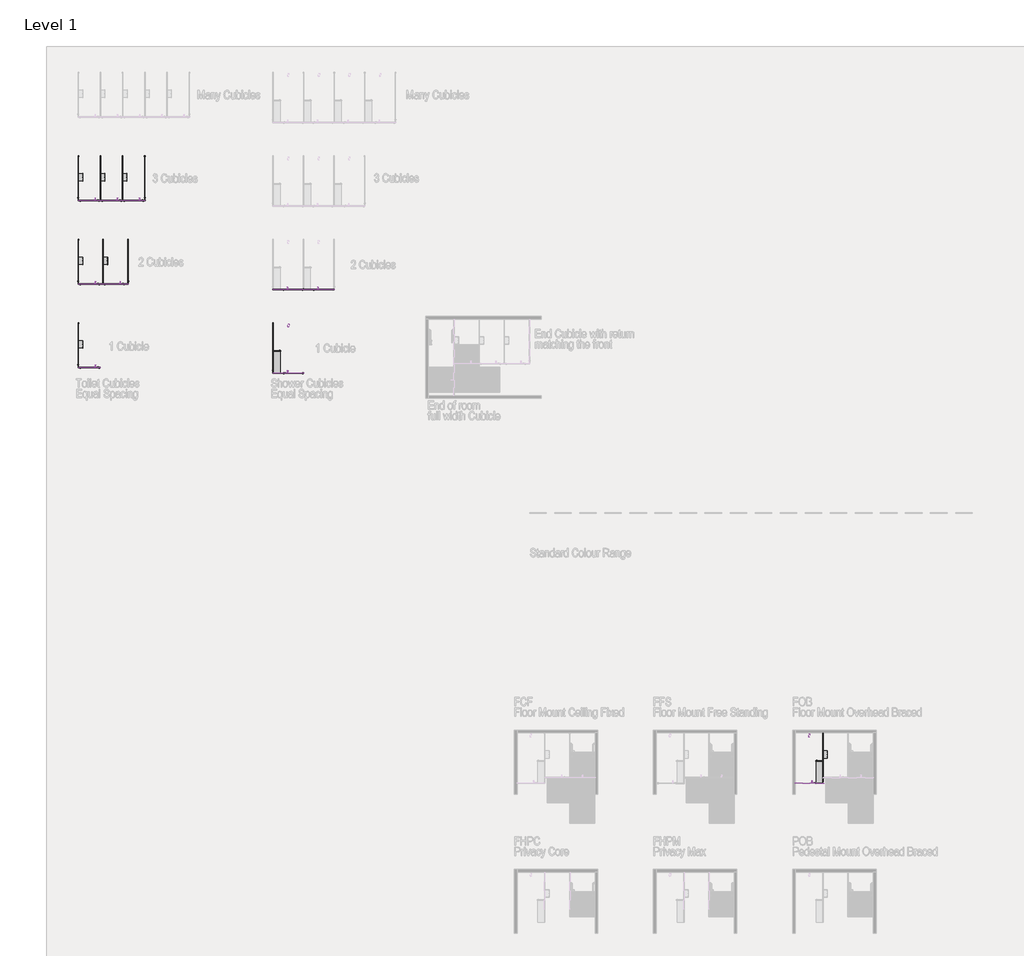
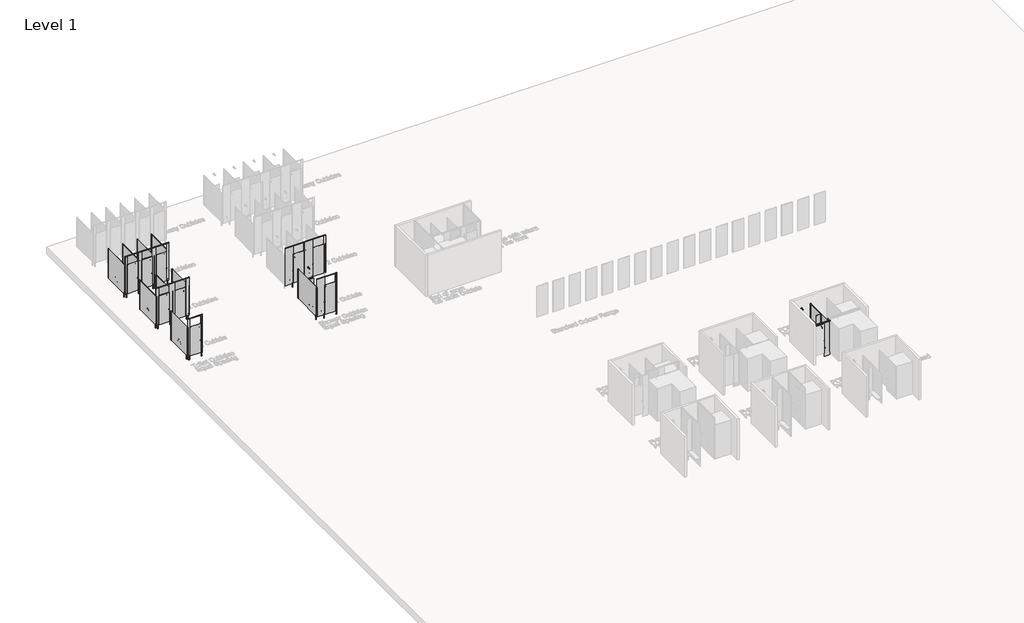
# One storey, part 4 of 21: 122 furniture elements, 7 proxies, 2 flow terminals.
"""IFC4 building model written with IfcOpenShell, lengths in millimetres."""

from ifc_helpers import new_model, si_unit, origin, place, context, project, spatial, transform, mapped, element, save
from components import toilet_paper_dispenser_single_generic_jumbo_roll_standard_5525cc7b, shower_outlet_generic_cylinder_fixed_standard_5790de0d, furniture_50x50x3_ea_0fb80352, furniture_50x50x3_ea_30474b0d, single_jumbo_roll_84fdac57, standard_48aedc78, standard_17157e73, standard_65739662, standard_f6136b52, standard_b136e32f, standard_1f9b89ca, standard_fe4ffabc, standard_7c3ea897, standard_11625aa9, standard_652f884a, standard_3be396ba, standard_0ccb0c43, standard_794593c2, standard_ea3ccfe1, standard_a8bdd259, standard_39e46a34, standard_4bb00b36, standard_c02571ef, standard_90f6d6dc, standard_d9afaeec, standard_903006f0, standard_83352e19, standard_31cafe8a, standard_3d746f33, standard_ba3eb68e, standard_a495ee6c, standard_6f46902e, standard_7d118681, standard_c8a961e5, standard_4ddd5521, standard_c67f05f5, standard_332f851e, standard_0b3fbc73

model = new_model("IFC4")

# Units and contexts
model_context = context("Model", 3, world=origin())
ifc_project = project(units=[si_unit("LENGTHUNIT", "METRE", prefix="MILLI")], contexts=[model_context])

# Site, building, storey
site = spatial("IfcSite", under=ifc_project)
building = spatial("IfcBuilding", under=site)
storey = spatial("IfcBuildingStorey", under=building, Name="Level 1", Elevation=0.0)

# Proxies
placement = place(None, origin())
toilet_paper_dispenser_single_generic_jumbo_roll_standard_shape = toilet_paper_dispenser_single_generic_jumbo_roll_standard_5525cc7b(model_context)
element("IfcBuildingElementProxy", 1, Name="Toilet Paper Dispenser-Single-Generic-Jumbo Roll : Standard", ObjectType="Toilet Paper Dispenser-Single-Generic-Jumbo Roll : Standard", at=placement, inside=storey, context=model_context, shape_type="MappedRepresentation", body=[
    mapped(toilet_paper_dispenser_single_generic_jumbo_roll_standard_shape, transform((-135.416652, 9284.4657683, 561.5), x_axis=(0.0, 1.0000000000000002, 0.0), y_axis=(0.0, 0.0, 1.0), z_axis=(1.0000000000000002, 0.0, 0.0))),
])
element("IfcBuildingElementProxy", 2, Name="Toilet Paper Dispenser-Single-Generic-Jumbo Roll : Standard", ObjectType="Toilet Paper Dispenser-Single-Generic-Jumbo Roll : Standard", at=placement, inside=storey, context=model_context, shape_type="MappedRepresentation", body=[
    mapped(toilet_paper_dispenser_single_generic_jumbo_roll_standard_shape, transform((-25995.2801542, 27012.2607897, 561.5), x_axis=(0.0, 1.0000000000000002, 0.0), y_axis=(0.0, 0.0, 1.0), z_axis=(1.0000000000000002, 0.0, 0.0))),
])
element("IfcBuildingElementProxy", 3, Name="Toilet Paper Dispenser-Single-Generic-Jumbo Roll : Standard", ObjectType="Toilet Paper Dispenser-Single-Generic-Jumbo Roll : Standard", at=placement, inside=storey, context=model_context, shape_type="MappedRepresentation", body=[
    mapped(toilet_paper_dispenser_single_generic_jumbo_roll_standard_shape, transform((-26093.1134875, 30012.2607897, 561.5), x_axis=(0.0, 1.0, 0.0), y_axis=(0.0, 0.0, 1.0), z_axis=(1.0, 0.0, 0.0))),
])
element("IfcBuildingElementProxy", 4, Name="Toilet Paper Dispenser-Single-Generic-Jumbo Roll : Standard", ObjectType="Toilet Paper Dispenser-Single-Generic-Jumbo Roll : Standard", at=placement, inside=storey, context=model_context, shape_type="MappedRepresentation", body=[
    mapped(toilet_paper_dispenser_single_generic_jumbo_roll_standard_shape, transform((-25297.4468208, 30012.2607897, 561.5), x_axis=(0.0, 1.0, 0.0), y_axis=(0.0, 0.0, 1.0), z_axis=(1.0, 0.0, 0.0))),
])
element("IfcBuildingElementProxy", 5, Name="Toilet Paper Dispenser-Single-Generic-Jumbo Roll : Standard", ObjectType="Toilet Paper Dispenser-Single-Generic-Jumbo Roll : Standard", at=placement, inside=storey, context=model_context, shape_type="MappedRepresentation", body=[
    mapped(toilet_paper_dispenser_single_generic_jumbo_roll_standard_shape, transform((-26888.7801542, 24012.2607897, 561.5), x_axis=(0.0, 1.0000000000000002, 0.0), y_axis=(0.0, 0.0, 1.0), z_axis=(1.0000000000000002, 0.0, 0.0))),
])
element("IfcBuildingElementProxy", 6, Name="Toilet Paper Dispenser-Single-Generic-Jumbo Roll : Standard", ObjectType="Toilet Paper Dispenser-Single-Generic-Jumbo Roll : Standard", at=placement, inside=storey, context=model_context, shape_type="MappedRepresentation", body=[
    mapped(toilet_paper_dispenser_single_generic_jumbo_roll_standard_shape, transform((-26888.7801542, 27012.2607897, 561.5), x_axis=(0.0, 1.0000000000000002, 0.0), y_axis=(0.0, 0.0, 1.0), z_axis=(1.0000000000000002, 0.0, 0.0))),
])
element("IfcBuildingElementProxy", 7, Name="Toilet Paper Dispenser-Single-Generic-Jumbo Roll : Standard", ObjectType="Toilet Paper Dispenser-Single-Generic-Jumbo Roll : Standard", at=placement, inside=storey, context=model_context, shape_type="MappedRepresentation", body=[
    mapped(toilet_paper_dispenser_single_generic_jumbo_roll_standard_shape, transform((-26888.7801542, 30012.2607897, 561.5), x_axis=(0.0, 1.0000000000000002, 0.0), y_axis=(0.0, 0.0, 1.0), z_axis=(1.0000000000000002, 0.0, 0.0))),
])

# Flow terminals
shower_outlet_generic_cylinder_fixed_standard_shape = shower_outlet_generic_cylinder_fixed_standard_5790de0d(model_context)
element("IfcFlowTerminal", 8, ObjectType="Shower-Outlet-Generic-Cylinder-Fixed : Standard", at=placement, inside=storey, context=model_context, shape_type="MappedRepresentation", body=[
    mapped(shower_outlet_generic_cylinder_fixed_standard_shape, transform((-641.916652, 10054.4657683, 1800.0), x_axis=(1.0, 0.0, 0.0), y_axis=(0.0, 0.0, 1.0), z_axis=(0.0, -1.0, 0.0))),
])
element("IfcFlowTerminal", 9, ObjectType="Shower-Outlet-Generic-Cylinder-Fixed : Standard", at=placement, inside=storey, context=model_context, shape_type="MappedRepresentation", body=[
    mapped(shower_outlet_generic_cylinder_fixed_standard_shape, transform((-19345.2801542, 24782.2607897, 1800.0), x_axis=(1.0, 0.0, 0.0), y_axis=(0.0, 0.0, 1.0), z_axis=(0.0, -1.0, 0.0))),
])

# Furniture
furniture_50x50x3_ea_shape = furniture_50x50x3_ea_0fb80352(model_context)
element("IfcFurniture", 10, ObjectType="X_Partition-Angle-Duracube-Shower Seat : 50x50x3 EA", at=placement, inside=storey, context=model_context, shape_type="MappedRepresentation", body=[
    mapped(furniture_50x50x3_ea_shape, transform((-19888.7801542, 23719.2607897, 462.0), x_axis=(0.0, -1.0, 0.0), y_axis=(0.0, 0.0, -1.0), z_axis=(1.0, 0.0, 0.0))),
])
element("IfcFurniture", 11, ObjectType="X_Partition-Angle-Duracube-Shower Seat : 50x50x3 EA", at=placement, inside=storey, context=model_context, shape_type="MappedRepresentation", body=[
    mapped(furniture_50x50x3_ea_shape, transform((-19888.7801542, 23032.2607897, 462.0), x_axis=(0.0, -1.0, 0.0), y_axis=(0.0, 0.0, -1.0), z_axis=(1.0, 0.0, 0.0))),
])
element("IfcFurniture", 12, ObjectType="X_Partition-Angle-Duracube-Shower Seat : 50x50x3 EA", at=placement, inside=storey, context=model_context, shape_type="MappedRepresentation", body=[
    mapped(furniture_50x50x3_ea_shape, transform((-19888.7801542, 23375.7607897, 462.0), x_axis=(0.0, -1.0, 0.0), y_axis=(0.0, 0.0, -1.0), z_axis=(1.0, 0.0, 0.0))),
])
element("IfcFurniture", 13, ObjectType="X_Partition-Angle-Duracube-Shower Seat : 50x50x3 EA", at=placement, inside=storey, context=model_context, shape_type="MappedRepresentation", body=[
    mapped(furniture_50x50x3_ea_shape, transform((-19673.7801542, 23769.2607897, 462.0), x_axis=(-1.0, 0.0, 0.0), y_axis=(0.0, 0.0, -1.0), z_axis=(0.0, -1.0, 0.0))),
])
element("IfcFurniture", 14, ObjectType="X_Partition-Angle-Duracube-Shower Seat : 50x50x3 EA", at=placement, inside=storey, context=model_context, shape_type="MappedRepresentation", body=[
    mapped(furniture_50x50x3_ea_shape, transform((-19673.7801542, 23007.2607897, 487.0), x_axis=(-1.0, 0.0, 0.0), y_axis=(0.0, 1.0, 0.0), z_axis=(0.0, 0.0, -1.0))),
])
furniture_50x50x3_ea_2_shape = furniture_50x50x3_ea_30474b0d(model_context)
element("IfcFurniture", 15, ObjectType="X_Partition-Angle-Duracube-Shower Seat : 50x50x3 EA", at=placement, inside=storey, context=model_context, shape_type="MappedRepresentation", body=[
    mapped(furniture_50x50x3_ea_2_shape, transform((-148.416652, 8991.4657683, 462.0), x_axis=(0.0, -1.0, 0.0), y_axis=(0.0, 0.0, 1.0), z_axis=(-1.0, 0.0, 0.0))),
])
element("IfcFurniture", 16, ObjectType="X_Partition-Angle-Duracube-Shower Seat : 50x50x3 EA", at=placement, inside=storey, context=model_context, shape_type="MappedRepresentation", body=[
    mapped(furniture_50x50x3_ea_2_shape, transform((-148.416652, 8304.4657683, 462.0), x_axis=(0.0, -1.0, 0.0), y_axis=(0.0, 0.0, 1.0), z_axis=(-1.0, 0.0, 0.0))),
])
element("IfcFurniture", 17, ObjectType="X_Partition-Angle-Duracube-Shower Seat : 50x50x3 EA", at=placement, inside=storey, context=model_context, shape_type="MappedRepresentation", body=[
    mapped(furniture_50x50x3_ea_2_shape, transform((-148.416652, 8647.9657683, 462.0), x_axis=(0.0, -1.0, 0.0), y_axis=(0.0, 0.0, 1.0), z_axis=(-1.0, 0.0, 0.0))),
])
element("IfcFurniture", 18, ObjectType="X_Partition-Angle-Duracube-Shower Seat : 50x50x3 EA", at=placement, inside=storey, context=model_context, shape_type="MappedRepresentation", body=[
    mapped(furniture_50x50x3_ea_2_shape, transform((-363.416652, 9041.4657683, 462.0), x_axis=(1.0, 0.0, 0.0), y_axis=(0.0, 0.0, 1.0), z_axis=(0.0, -1.0, 0.0))),
])
element("IfcFurniture", 19, ObjectType="X_Partition-Angle-Duracube-Shower Seat : 50x50x3 EA", at=placement, inside=storey, context=model_context, shape_type="MappedRepresentation", body=[
    mapped(furniture_50x50x3_ea_2_shape, transform((-363.416652, 8279.4657683, 487.0), x_axis=(1.0, 0.0, 0.0), y_axis=(0.0, -1.0, 0.0), z_axis=(0.0, 0.0, -1.0))),
])
single_jumbo_roll_shape = single_jumbo_roll_84fdac57(model_context)
element("IfcFurniture", 20, ObjectType="X_Partition-Compact Laminate-Duracube-Rectangular : Single Jumbo Roll", at=placement, inside=storey, context=model_context, shape_type="MappedRepresentation", body=[
    mapped(single_jumbo_roll_shape, transform((-26901.7801542, 23937.5604633, 0.0), x_axis=(0.0, 1.0000000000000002, 0.0), y_axis=(-1.0000000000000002, 0.0, 0.0), z_axis=(0.0, 0.0, 1.0))),
])
element("IfcFurniture", 21, ObjectType="X_Partition-Compact Laminate-Duracube-Rectangular : Single Jumbo Roll", at=placement, inside=storey, context=model_context, shape_type="MappedRepresentation", body=[
    mapped(single_jumbo_roll_shape, transform((-26901.7801542, 26937.5604633, 0.0), x_axis=(0.0, 1.0000000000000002, 0.0), y_axis=(-1.0000000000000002, 0.0, 0.0), z_axis=(0.0, 0.0, 1.0))),
])
element("IfcFurniture", 22, ObjectType="X_Partition-Compact Laminate-Duracube-Rectangular : Single Jumbo Roll", at=placement, inside=storey, context=model_context, shape_type="MappedRepresentation", body=[
    mapped(single_jumbo_roll_shape, transform((-26901.7801542, 29937.5604633, 0.0), x_axis=(0.0, 1.0000000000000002, 0.0), y_axis=(-1.0000000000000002, 0.0, 0.0), z_axis=(0.0, 0.0, 1.0))),
])
element("IfcFurniture", 23, ObjectType="X_Partition-Compact Laminate-Duracube-Rectangular : Single Jumbo Roll", at=placement, inside=storey, context=model_context, shape_type="MappedRepresentation", body=[
    mapped(single_jumbo_roll_shape, transform((-26008.2801542, 26937.5604633, 0.0), x_axis=(0.0, 1.0000000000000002, 0.0), y_axis=(-1.0000000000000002, 0.0, 0.0), z_axis=(0.0, 0.0, 1.0))),
])
element("IfcFurniture", 24, ObjectType="X_Partition-Compact Laminate-Duracube-Rectangular : Single Jumbo Roll", at=placement, inside=storey, context=model_context, shape_type="MappedRepresentation", body=[
    mapped(single_jumbo_roll_shape, transform((-26106.1134875, 29937.5604633, 0.0), x_axis=(0.0, 1.0, 0.0), y_axis=(-1.0, 0.0, 0.0), z_axis=(0.0, 0.0, 1.0))),
])
element("IfcFurniture", 25, ObjectType="X_Partition-Compact Laminate-Duracube-Rectangular : Single Jumbo Roll", at=placement, inside=storey, context=model_context, shape_type="MappedRepresentation", body=[
    mapped(single_jumbo_roll_shape, transform((-25310.4468208, 29937.5604633, 0.0), x_axis=(0.0, 1.0, 0.0), y_axis=(-1.0, 0.0, 0.0), z_axis=(0.0, 0.0, 1.0))),
])
standard_shape = standard_48aedc78(model_context)
element("IfcFurniture", 26, ObjectType="X_Partition-Channel-Duracube-Ceiling : Standard", at=placement, inside=storey, context=model_context, shape_type="MappedRepresentation", body=[
    mapped(standard_shape, transform((-18846.4804806, 25984.2607897, 2374.0), x_axis=(1.0, 0.0, 0.0), y_axis=(0.0, 1.0, 0.0), z_axis=(0.0, 0.0, 1.0))),
])
standard_2_shape = standard_17157e73(model_context)
element("IfcFurniture", 27, ObjectType="X_Partition-Compact Laminate-Duracube-Rectangular : Standard", at=placement, inside=storey, context=model_context, shape_type="MappedRepresentation", body=[
    mapped(standard_2_shape, transform((-148.416652, 9109.7654418, 0.0), x_axis=(0.0, 1.0000000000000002, 0.0), y_axis=(-1.0000000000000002, 0.0, 0.0), z_axis=(0.0, 0.0, 1.0))),
])
element("IfcFurniture", 28, ObjectType="X_Partition-Compact Laminate-Duracube-Rectangular : Standard", at=placement, inside=storey, context=model_context, shape_type="MappedRepresentation", body=[
    mapped(standard_2_shape, transform((-19901.7801542, 23837.5604633, 0.0), x_axis=(0.0, 1.0000000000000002, 0.0), y_axis=(-1.0000000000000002, 0.0, 0.0), z_axis=(0.0, 0.0, 1.0))),
])
element("IfcFurniture", 29, ObjectType="X_Partition-Compact Laminate-Duracube-Rectangular : Standard", at=placement, inside=storey, context=model_context, shape_type="MappedRepresentation", body=[
    mapped(single_jumbo_roll_shape, transform((-25114.7801542, 26937.5604633, 0.0), x_axis=(0.0, 1.0000000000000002, 0.0), y_axis=(-1.0000000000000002, 0.0, 0.0), z_axis=(0.0, 0.0, 1.0))),
])
element("IfcFurniture", 30, ObjectType="X_Partition-Compact Laminate-Duracube-Rectangular : Standard", at=placement, inside=storey, context=model_context, shape_type="MappedRepresentation", body=[
    mapped(single_jumbo_roll_shape, transform((-24514.7801542, 29937.5604633, 0.0), x_axis=(0.0, 1.0000000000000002, 0.0), y_axis=(-1.0000000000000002, 0.0, 0.0), z_axis=(0.0, 0.0, 1.0))),
])
standard_3_shape = standard_65739662(model_context)
element("IfcFurniture", 31, ObjectType="X_Partition-Compact Laminate-Duracube-Shower Seat & Division : Standard", at=placement, inside=storey, context=model_context, shape_type="MappedRepresentation", body=[
    mapped(standard_3_shape, transform((-19710.0798277, 23782.2607897, 0.0), x_axis=(-1.0, 0.0, 0.0), y_axis=(0.0, -1.0, 0.0), z_axis=(0.0, 0.0, 1.0))),
])
standard_4_shape = standard_f6136b52(model_context)
element("IfcFurniture", 32, ObjectType="X_Partition-Channel-Duracube-End : Standard", at=placement, inside=storey, context=model_context, shape_type="MappedRepresentation", body=[
    mapped(standard_4_shape, transform((-19918.4804806, 23769.2607897, 0.0), x_axis=(1.0000000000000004, 0.0, 0.0), y_axis=(0.0, 1.0000000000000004, 0.0), z_axis=(0.0, 0.0, 1.0))),
])
standard_5_shape = standard_b136e32f(model_context)
element("IfcFurniture", 33, ObjectType="X_Partition-Channel-Duracube-Ceiling : Standard", at=placement, inside=storey, context=model_context, shape_type="MappedRepresentation", body=[
    mapped(standard_5_shape, transform((-19397.4804806, 22984.2607897, 2374.0), x_axis=(1.0, 0.0, 0.0), y_axis=(0.0, 1.0, 0.0), z_axis=(0.0, 0.0, 1.0))),
])
standard_6_shape = standard_1f9b89ca(model_context)
element("IfcFurniture", 34, ObjectType="X_Partition-Channel-Duracube-Ceiling : Standard", at=placement, inside=storey, context=model_context, shape_type="MappedRepresentation", body=[
    mapped(standard_6_shape, transform((-26547.4804806, 23184.2607897, 2374.0), x_axis=(1.0, 0.0, 0.0), y_axis=(0.0, 1.0, 0.0), z_axis=(0.0, 0.0, 1.0))),
])
standard_7_shape = standard_fe4ffabc(model_context)
element("IfcFurniture", 35, ObjectType="X_Partition-Compact Laminate-Duracube-Rectangular : Standard", at=placement, inside=storey, context=model_context, shape_type="MappedRepresentation", body=[
    mapped(standard_7_shape, transform((-19736.9804806, 22982.2607897, 0.0), x_axis=(1.0, 0.0, 0.0), y_axis=(0.0, 1.0, 0.0), z_axis=(0.0, 0.0, 1.0))),
])
standard_8_shape = standard_7c3ea897(model_context)
element("IfcFurniture", 36, ObjectType="X_Partition-Channel-Duracube-End : Standard", at=placement, inside=storey, context=model_context, shape_type="MappedRepresentation", body=[
    mapped(standard_8_shape, transform((-18772.0798277, 22982.2607897, 0.0), x_axis=(-1.0000000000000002, 0.0, 0.0), y_axis=(0.0, -1.0000000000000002, 0.0), z_axis=(0.0, 0.0, 1.0))),
])
element("IfcFurniture", 37, ObjectType="X_Partition-Channel-Duracube-End : Standard", at=placement, inside=storey, context=model_context, shape_type="MappedRepresentation", body=[
    mapped(standard_8_shape, transform((-26072.0798277, 23182.2607897, 0.0), x_axis=(-1.0000000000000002, 0.0, 0.0), y_axis=(0.0, -1.0000000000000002, 0.0), z_axis=(0.0, 0.0, 1.0))),
])
standard_9_shape = standard_11625aa9(model_context)
element("IfcFurniture", 38, ObjectType="X_Partition-Compact Laminate-Duracube-Rectangular : Standard", at=placement, inside=storey, context=model_context, shape_type="MappedRepresentation", body=[
    mapped(standard_9_shape, transform((-19740.2304806, 25982.2607897, 0.0), x_axis=(1.0, 0.0, 0.0), y_axis=(0.0, 1.0, 0.0), z_axis=(0.0, 0.0, 1.0))),
])
standard_10_shape = standard_652f884a(model_context)
element("IfcFurniture", 39, ObjectType="X_Partition-Compact Laminate-Duracube-Rectangular : Standard", at=placement, inside=storey, context=model_context, shape_type="MappedRepresentation", body=[
    mapped(standard_10_shape, transform((-17787.4804806, 25982.2607897, 0.0), x_axis=(1.0, 0.0, 0.0), y_axis=(0.0, 1.0, 0.0), z_axis=(0.0, 0.0, 1.0))),
])
standard_11_shape = standard_3be396ba(model_context)
element("IfcFurniture", 40, ObjectType="X_Partition-Compact Laminate-Duracube-Rectangular : Standard", at=placement, inside=storey, context=model_context, shape_type="MappedRepresentation", body=[
    mapped(standard_11_shape, transform((-18681.2304806, 25982.2607897, 0.0), x_axis=(1.0, 0.0, 0.0), y_axis=(0.0, 1.0, 0.0), z_axis=(0.0, 0.0, 1.0))),
])
standard_12_shape = standard_0ccb0c43(model_context)
element("IfcFurniture", 41, ObjectType="X_Partition-Compact Laminate-Duracube-Rectangular : Standard", at=placement, inside=storey, context=model_context, shape_type="MappedRepresentation", body=[
    mapped(standard_12_shape, transform((-26892.9804806, 23182.2607897, 0.0), x_axis=(1.0, 0.0, 0.0), y_axis=(0.0, 1.0, 0.0), z_axis=(0.0, 0.0, 1.0))),
])
element("IfcFurniture", 42, ObjectType="X_Partition-Compact Laminate-Duracube-Rectangular : Standard", at=placement, inside=storey, context=model_context, shape_type="MappedRepresentation", body=[
    mapped(standard_12_shape, transform((-26892.9804806, 26182.2607897, 0.0), x_axis=(1.0, 0.0, 0.0), y_axis=(0.0, 1.0, 0.0), z_axis=(0.0, 0.0, 1.0))),
])
element("IfcFurniture", 43, ObjectType="X_Partition-Compact Laminate-Duracube-Rectangular : Standard", at=placement, inside=storey, context=model_context, shape_type="MappedRepresentation", body=[
    mapped(standard_12_shape, transform((-26892.9804806, 29182.2607897, 0.0), x_axis=(1.0, 0.0, 0.0), y_axis=(0.0, 1.0, 0.0), z_axis=(0.0, 0.0, 1.0))),
])
standard_13_shape = standard_794593c2(model_context)
element("IfcFurniture", 44, ObjectType="X_Partition-Compact Laminate-Duracube-Rectangular : Standard", at=placement, inside=storey, context=model_context, shape_type="MappedRepresentation", body=[
    mapped(standard_13_shape, transform((-26190.4804806, 23182.2607897, 0.0), x_axis=(1.0, 0.0, 0.0), y_axis=(0.0, 1.0, 0.0), z_axis=(0.0, 0.0, 1.0))),
])
standard_14_shape = standard_ea3ccfe1(model_context)
element("IfcFurniture", 45, ObjectType="X_Partition-Compact Laminate-Duracube-Rectangular : Standard", at=placement, inside=storey, context=model_context, shape_type="MappedRepresentation", body=[
    mapped(standard_14_shape, transform((-25240.2304806, 26182.2607897, 0.0), x_axis=(1.0, 0.0, 0.0), y_axis=(0.0, 1.0, 0.0), z_axis=(0.0, 0.0, 1.0))),
])
standard_15_shape = standard_a8bdd259(model_context)
element("IfcFurniture", 46, ObjectType="X_Partition-Compact Laminate-Duracube-Rectangular : Standard", at=placement, inside=storey, context=model_context, shape_type="MappedRepresentation", body=[
    mapped(standard_15_shape, transform((-26086.7304806, 26182.2607897, 0.0), x_axis=(1.0, 0.0, 0.0), y_axis=(0.0, 1.0, 0.0), z_axis=(0.0, 0.0, 1.0))),
])
standard_16_shape = standard_39e46a34(model_context)
element("IfcFurniture", 47, ObjectType="X_Partition-Compact Laminate-Duracube-Rectangular : Standard", at=placement, inside=storey, context=model_context, shape_type="MappedRepresentation", body=[
    mapped(standard_16_shape, transform((-24593.4804806, 29182.2607897, 0.0), x_axis=(1.0, 0.0, 0.0), y_axis=(0.0, 1.0, 0.0), z_axis=(0.0, 0.0, 1.0))),
])
standard_17_shape = standard_4bb00b36(model_context)
element("IfcFurniture", 48, ObjectType="X_Partition-Compact Laminate-Duracube-Rectangular : Standard", at=placement, inside=storey, context=model_context, shape_type="MappedRepresentation", body=[
    mapped(standard_17_shape, transform((-26137.8138139, 29182.2607897, 0.0), x_axis=(1.0, 0.0, 0.0), y_axis=(0.0, 1.0, 0.0), z_axis=(0.0, 0.0, 1.0))),
])
element("IfcFurniture", 49, ObjectType="X_Partition-Compact Laminate-Duracube-Rectangular : Standard", at=placement, inside=storey, context=model_context, shape_type="MappedRepresentation", body=[
    mapped(standard_17_shape, transform((-25342.1471473, 29182.2607897, 0.0), x_axis=(1.0, 0.0, 0.0), y_axis=(0.0, 1.0, 0.0), z_axis=(0.0, 0.0, 1.0))),
])
standard_18_shape = standard_c02571ef(model_context)
element("IfcFurniture", 50, ObjectType="X_Partition-Compact Laminate-Duracube-Rectangular : Standard", at=placement, inside=storey, context=model_context, shape_type="MappedRepresentation", body=[
    mapped(standard_18_shape, transform((-327.1169784, 8254.4657683, 0.0), x_axis=(1.0, 0.0, 0.0), y_axis=(0.0, 1.0, 0.0), z_axis=(0.0, 0.0, 1.0))),
])
standard_19_shape = standard_90f6d6dc(model_context)
element("IfcFurniture", 51, ObjectType="X_Partition-Channel-Duracube-End : Standard", at=placement, inside=storey, context=model_context, shape_type="MappedRepresentation", body=[
    mapped(standard_19_shape, transform((-165.1169784, 8454.4657683, 0.0), x_axis=(1.0000000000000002, 0.0, 0.0), y_axis=(0.0, 1.0000000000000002, 0.0), z_axis=(0.0, 0.0, 1.0))),
])
standard_20_shape = standard_d9afaeec(model_context)
element("IfcFurniture", 52, ObjectType="X_Partition-Compact Laminate-Duracube-Door : Standard", at=placement, inside=storey, context=model_context, shape_type="MappedRepresentation", body=[
    mapped(standard_20_shape, transform((-26533.4804806, 23182.2607897, 0.0), x_axis=(1.0, 0.0, 0.0), y_axis=(0.0, 1.0, 0.0), z_axis=(0.0, 0.0, 1.0))),
])
element("IfcFurniture", 53, ObjectType="X_Partition-Compact Laminate-Duracube-Door : Standard", at=placement, inside=storey, context=model_context, shape_type="MappedRepresentation", body=[
    mapped(standard_20_shape, transform((-26533.4804806, 26182.2607897, 0.0), x_axis=(1.0, 0.0, 0.0), y_axis=(0.0, 1.0, 0.0), z_axis=(0.0, 0.0, 1.0))),
])
element("IfcFurniture", 54, ObjectType="X_Partition-Compact Laminate-Duracube-Door : Standard", at=placement, inside=storey, context=model_context, shape_type="MappedRepresentation", body=[
    mapped(standard_20_shape, transform((-25639.9804806, 26182.2607897, 0.0), x_axis=(1.0, 0.0, 0.0), y_axis=(0.0, 1.0, 0.0), z_axis=(0.0, 0.0, 1.0))),
])
element("IfcFurniture", 55, ObjectType="X_Partition-Compact Laminate-Duracube-Door : Standard", at=placement, inside=storey, context=model_context, shape_type="MappedRepresentation", body=[
    mapped(standard_20_shape, transform((-19221.4804806, 22982.2607897, 0.0), x_axis=(1.0, 0.0, 0.0), y_axis=(0.0, 1.0, 0.0), z_axis=(0.0, 0.0, 1.0))),
])
element("IfcFurniture", 56, ObjectType="X_Partition-Compact Laminate-Duracube-Door : Standard", at=placement, inside=storey, context=model_context, shape_type="MappedRepresentation", body=[
    mapped(standard_20_shape, transform((-19227.9804806, 25982.2607897, 0.0), x_axis=(1.0, 0.0, 0.0), y_axis=(0.0, 1.0, 0.0), z_axis=(0.0, 0.0, 1.0))),
])
element("IfcFurniture", 57, ObjectType="X_Partition-Compact Laminate-Duracube-Door : Standard", at=placement, inside=storey, context=model_context, shape_type="MappedRepresentation", body=[
    mapped(standard_20_shape, transform((-18134.4804806, 25982.2607897, 0.0), x_axis=(1.0, 0.0, 0.0), y_axis=(0.0, 1.0, 0.0), z_axis=(0.0, 0.0, 1.0))),
])
standard_21_shape = standard_903006f0(model_context)
element("IfcFurniture", 58, ObjectType="X_Partition-Compact Laminate-Duracube-Door : Standard", at=placement, inside=storey, context=model_context, shape_type="MappedRepresentation", body=[
    mapped(standard_21_shape, transform((-26535.6471473, 29182.2607897, 0.0), x_axis=(1.0, 0.0, 0.0), y_axis=(0.0, 1.0, 0.0), z_axis=(0.0, 0.0, 1.0))),
])
element("IfcFurniture", 59, ObjectType="X_Partition-Compact Laminate-Duracube-Door : Standard", at=placement, inside=storey, context=model_context, shape_type="MappedRepresentation", body=[
    mapped(standard_21_shape, transform((-24944.3138139, 29182.2607897, 0.0), x_axis=(1.0, 0.0, 0.0), y_axis=(0.0, 1.0, 0.0), z_axis=(0.0, 0.0, 1.0))),
])
element("IfcFurniture", 60, ObjectType="X_Partition-Compact Laminate-Duracube-Door : Standard", at=placement, inside=storey, context=model_context, shape_type="MappedRepresentation", body=[
    mapped(standard_21_shape, transform((-25739.9804806, 29182.2607897, 0.0), x_axis=(1.0, 0.0, 0.0), y_axis=(0.0, 1.0, 0.0), z_axis=(0.0, 0.0, 1.0))),
])
standard_22_shape = standard_83352e19(model_context)
element("IfcFurniture", 61, ObjectType="X_Partition-Compact Laminate-Duracube-Rectangular : Standard", at=placement, inside=storey, context=model_context, shape_type="MappedRepresentation", body=[
    mapped(standard_22_shape, transform((-18884.4804806, 22982.2607897, 0.0), x_axis=(1.0, 0.0, 0.0), y_axis=(0.0, 1.0, 0.0), z_axis=(0.0, 0.0, 1.0))),
])
standard_23_shape = standard_31cafe8a(model_context)
element("IfcFurniture", 62, ObjectType="X_Partition-Robe Hook-Duracube-Door Stop : Standard", at=placement, inside=storey, context=model_context, shape_type="MappedRepresentation", body=[
    mapped(standard_23_shape, transform((-535.416652, 8254.4657683, 1700.0), x_axis=(-1.0, 0.0, 0.0), y_axis=(0.0, 0.0, 1.0), z_axis=(0.0, 1.0, 0.0))),
])
element("IfcFurniture", 63, ObjectType="X_Partition-Robe Hook-Duracube-Door Stop : Standard", at=placement, inside=storey, context=model_context, shape_type="MappedRepresentation", body=[
    mapped(standard_23_shape, transform((-19376.7801542, 22982.2607897, 1700.0), x_axis=(-1.0, 0.0, 0.0), y_axis=(0.0, 0.0, 1.0), z_axis=(0.0, 1.0, 0.0))),
])
element("IfcFurniture", 64, ObjectType="X_Partition-Robe Hook-Duracube-Door Stop : Standard", at=placement, inside=storey, context=model_context, shape_type="MappedRepresentation", body=[
    mapped(standard_23_shape, transform((-19383.2801542, 25982.2607897, 1700.0), x_axis=(-1.0, 0.0, 0.0), y_axis=(0.0, 0.0, 1.0), z_axis=(0.0, 1.0, 0.0))),
])
element("IfcFurniture", 65, ObjectType="X_Partition-Robe Hook-Duracube-Door Stop : Standard", at=placement, inside=storey, context=model_context, shape_type="MappedRepresentation", body=[
    mapped(standard_23_shape, transform((-18289.7801542, 25982.2607897, 1700.0), x_axis=(-1.0, 0.0, 0.0), y_axis=(0.0, 0.0, 1.0), z_axis=(0.0, 1.0, 0.0))),
])
element("IfcFurniture", 66, ObjectType="X_Partition-Robe Hook-Duracube-Door Stop : Standard", at=placement, inside=storey, context=model_context, shape_type="MappedRepresentation", body=[
    mapped(standard_23_shape, transform((-26288.7801542, 23182.2607897, 1700.0), x_axis=(-1.0, 0.0, 0.0), y_axis=(0.0, 0.0, 1.0), z_axis=(0.0, 1.0, 0.0))),
])
element("IfcFurniture", 67, ObjectType="X_Partition-Robe Hook-Duracube-Door Stop : Standard", at=placement, inside=storey, context=model_context, shape_type="MappedRepresentation", body=[
    mapped(standard_23_shape, transform((-26288.7801542, 26182.2607897, 1700.0), x_axis=(-1.0, 0.0, 0.0), y_axis=(0.0, 0.0, 1.0), z_axis=(0.0, 1.0, 0.0))),
])
element("IfcFurniture", 68, ObjectType="X_Partition-Robe Hook-Duracube-Door Stop : Standard", at=placement, inside=storey, context=model_context, shape_type="MappedRepresentation", body=[
    mapped(standard_23_shape, transform((-26293.1134875, 29182.2607897, 1700.0), x_axis=(-1.0, 0.0, 0.0), y_axis=(0.0, 0.0, 1.0), z_axis=(0.0, 1.0, 0.0))),
])
element("IfcFurniture", 69, ObjectType="X_Partition-Robe Hook-Duracube-Door Stop : Standard", at=placement, inside=storey, context=model_context, shape_type="MappedRepresentation", body=[
    mapped(standard_23_shape, transform((-24701.7801542, 29182.2607897, 1700.0), x_axis=(-1.0, 0.0, 0.0), y_axis=(0.0, 0.0, 1.0), z_axis=(0.0, 1.0, 0.0))),
])
element("IfcFurniture", 70, ObjectType="X_Partition-Robe Hook-Duracube-Door Stop : Standard", at=placement, inside=storey, context=model_context, shape_type="MappedRepresentation", body=[
    mapped(standard_23_shape, transform((-25497.4468208, 29182.2607897, 1700.0), x_axis=(-1.0, 0.0, 0.0), y_axis=(0.0, 0.0, 1.0), z_axis=(0.0, 1.0, 0.0))),
])
element("IfcFurniture", 71, ObjectType="X_Partition-Robe Hook-Duracube-Door Stop : Standard", at=placement, inside=storey, context=model_context, shape_type="MappedRepresentation", body=[
    mapped(standard_23_shape, transform((-25395.2801542, 26182.2607897, 1700.0), x_axis=(-1.0, 0.0, 0.0), y_axis=(0.0, 0.0, 1.0), z_axis=(0.0, 1.0, 0.0))),
])
standard_24_shape = standard_3d746f33(model_context)
element("IfcFurniture", 72, ObjectType="X_Partition-Foot-Duracube-Assembly : Standard", at=placement, inside=storey, context=model_context, shape_type="MappedRepresentation", body=[
    mapped(standard_24_shape, transform((-417.1169784, 9074.4657683, 0.0), x_axis=(1.0, 0.0, 0.0), y_axis=(0.0, 1.0, 0.0), z_axis=(0.0, 0.0, 1.0))),
])
element("IfcFurniture", 73, ObjectType="X_Partition-Foot-Duracube-Assembly : Standard", at=placement, inside=storey, context=model_context, shape_type="MappedRepresentation", body=[
    mapped(standard_24_shape, transform((-19474.5798277, 22949.2607897, 0.0), x_axis=(-1.0000000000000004, 0.0, 0.0), y_axis=(0.0, -1.0000000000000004, 0.0), z_axis=(0.0, 0.0, 1.0))),
])
element("IfcFurniture", 74, ObjectType="X_Partition-Foot-Duracube-Assembly : Standard", at=placement, inside=storey, context=model_context, shape_type="MappedRepresentation", body=[
    mapped(standard_24_shape, transform((-19921.7801542, 23031.0604633, 0.0), x_axis=(0.0, 1.0000000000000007, 0.0), y_axis=(-1.0000000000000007, 0.0, 0.0), z_axis=(0.0, 0.0, 1.0))),
])
element("IfcFurniture", 75, ObjectType="X_Partition-Foot-Duracube-Assembly : Standard", at=placement, inside=storey, context=model_context, shape_type="MappedRepresentation", body=[
    mapped(standard_24_shape, transform((-18789.5798277, 22949.2607897, 0.0), x_axis=(-1.0000000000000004, 0.0, 0.0), y_axis=(0.0, -1.0000000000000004, 0.0), z_axis=(0.0, 0.0, 1.0))),
])
element("IfcFurniture", 76, ObjectType="X_Partition-Foot-Duracube-Assembly : Standard", at=placement, inside=storey, context=model_context, shape_type="MappedRepresentation", body=[
    mapped(standard_24_shape, transform((-19481.0798277, 25949.2607897, 0.0), x_axis=(-1.0000000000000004, 0.0, 0.0), y_axis=(0.0, -1.0000000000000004, 0.0), z_axis=(0.0, 0.0, 1.0))),
])
element("IfcFurniture", 77, ObjectType="X_Partition-Foot-Duracube-Assembly : Standard", at=placement, inside=storey, context=model_context, shape_type="MappedRepresentation", body=[
    mapped(standard_24_shape, transform((-18796.0798277, 25949.2607897, 0.0), x_axis=(-1.0000000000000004, 0.0, 0.0), y_axis=(0.0, -1.0000000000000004, 0.0), z_axis=(0.0, 0.0, 1.0))),
])
element("IfcFurniture", 78, ObjectType="X_Partition-Foot-Duracube-Assembly : Standard", at=placement, inside=storey, context=model_context, shape_type="MappedRepresentation", body=[
    mapped(standard_24_shape, transform((-18387.5798277, 25949.2607897, 0.0), x_axis=(-1.0000000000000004, 0.0, 0.0), y_axis=(0.0, -1.0000000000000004, 0.0), z_axis=(0.0, 0.0, 1.0))),
])
element("IfcFurniture", 79, ObjectType="X_Partition-Foot-Duracube-Assembly : Standard", at=placement, inside=storey, context=model_context, shape_type="MappedRepresentation", body=[
    mapped(standard_24_shape, transform((-26786.5798277, 23149.2607897, 0.0), x_axis=(-1.0000000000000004, 0.0, 0.0), y_axis=(0.0, -1.0000000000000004, 0.0), z_axis=(0.0, 0.0, 1.0))),
])
element("IfcFurniture", 80, ObjectType="X_Partition-Foot-Duracube-Assembly : Standard", at=placement, inside=storey, context=model_context, shape_type="MappedRepresentation", body=[
    mapped(standard_24_shape, transform((-26921.7801542, 23231.0604633, 0.0), x_axis=(0.0, 1.0000000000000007, 0.0), y_axis=(-1.0000000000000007, 0.0, 0.0), z_axis=(0.0, 0.0, 1.0))),
])
element("IfcFurniture", 81, ObjectType="X_Partition-Foot-Duracube-Assembly : Standard", at=placement, inside=storey, context=model_context, shape_type="MappedRepresentation", body=[
    mapped(standard_24_shape, transform((-26101.5798277, 23149.2607897, 0.0), x_axis=(-1.0000000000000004, 0.0, 0.0), y_axis=(0.0, -1.0000000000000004, 0.0), z_axis=(0.0, 0.0, 1.0))),
])
element("IfcFurniture", 82, ObjectType="X_Partition-Foot-Duracube-Assembly : Standard", at=placement, inside=storey, context=model_context, shape_type="MappedRepresentation", body=[
    mapped(standard_24_shape, transform((-26786.5798277, 26149.2607897, 0.0), x_axis=(-1.0000000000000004, 0.0, 0.0), y_axis=(0.0, -1.0000000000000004, 0.0), z_axis=(0.0, 0.0, 1.0))),
])
element("IfcFurniture", 83, ObjectType="X_Partition-Foot-Duracube-Assembly : Standard", at=placement, inside=storey, context=model_context, shape_type="MappedRepresentation", body=[
    mapped(standard_24_shape, transform((-26921.7801542, 26231.0604633, 0.0), x_axis=(0.0, 1.0000000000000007, 0.0), y_axis=(-1.0000000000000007, 0.0, 0.0), z_axis=(0.0, 0.0, 1.0))),
])
element("IfcFurniture", 84, ObjectType="X_Partition-Foot-Duracube-Assembly : Standard", at=placement, inside=storey, context=model_context, shape_type="MappedRepresentation", body=[
    mapped(standard_24_shape, transform((-25208.0798277, 26149.2607897, 0.0), x_axis=(-1.0000000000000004, 0.0, 0.0), y_axis=(0.0, -1.0000000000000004, 0.0), z_axis=(0.0, 0.0, 1.0))),
])
element("IfcFurniture", 85, ObjectType="X_Partition-Foot-Duracube-Assembly : Standard", at=placement, inside=storey, context=model_context, shape_type="MappedRepresentation", body=[
    mapped(standard_24_shape, transform((-26786.5798277, 29149.2607897, 0.0), x_axis=(-1.0000000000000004, 0.0, 0.0), y_axis=(0.0, -1.0000000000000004, 0.0), z_axis=(0.0, 0.0, 1.0))),
])
element("IfcFurniture", 86, ObjectType="X_Partition-Foot-Duracube-Assembly : Standard", at=placement, inside=storey, context=model_context, shape_type="MappedRepresentation", body=[
    mapped(standard_24_shape, transform((-26921.7801542, 29231.0604633, 0.0), x_axis=(0.0, 1.0000000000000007, 0.0), y_axis=(-1.0000000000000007, 0.0, 0.0), z_axis=(0.0, 0.0, 1.0))),
])
element("IfcFurniture", 87, ObjectType="X_Partition-Foot-Duracube-Assembly : Standard", at=placement, inside=storey, context=model_context, shape_type="MappedRepresentation", body=[
    mapped(standard_24_shape, transform((-24514.5798277, 29149.2607897, 0.0), x_axis=(-1.0000000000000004, 0.0, 0.0), y_axis=(0.0, -1.0000000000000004, 0.0), z_axis=(0.0, 0.0, 1.0))),
])
element("IfcFurniture", 88, ObjectType="X_Partition-Foot-Duracube-Assembly : Standard", at=placement, inside=storey, context=model_context, shape_type="MappedRepresentation", body=[
    mapped(standard_24_shape, transform((-26101.5798277, 26149.2607897, 0.0), x_axis=(-1.0000000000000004, 0.0, 0.0), y_axis=(0.0, -1.0000000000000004, 0.0), z_axis=(0.0, 0.0, 1.0))),
])
element("IfcFurniture", 89, ObjectType="X_Partition-Foot-Duracube-Assembly : Standard", at=placement, inside=storey, context=model_context, shape_type="MappedRepresentation", body=[
    mapped(standard_24_shape, transform((-25893.0798277, 26149.2607897, 0.0), x_axis=(-1.0000000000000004, 0.0, 0.0), y_axis=(0.0, -1.0000000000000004, 0.0), z_axis=(0.0, 0.0, 1.0))),
])
element("IfcFurniture", 90, ObjectType="X_Partition-Foot-Duracube-Assembly : Standard", at=placement, inside=storey, context=model_context, shape_type="MappedRepresentation", body=[
    mapped(standard_24_shape, transform((-26105.9131611, 29149.2607897, 0.0), x_axis=(-1.0000000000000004, 0.0, 0.0), y_axis=(0.0, -1.0000000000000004, 0.0), z_axis=(0.0, 0.0, 1.0))),
])
element("IfcFurniture", 91, ObjectType="X_Partition-Foot-Duracube-Assembly : Standard", at=placement, inside=storey, context=model_context, shape_type="MappedRepresentation", body=[
    mapped(standard_24_shape, transform((-25990.9131611, 29149.2607897, 0.0), x_axis=(-1.0000000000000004, 0.0, 0.0), y_axis=(0.0, -1.0000000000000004, 0.0), z_axis=(0.0, 0.0, 1.0))),
])
element("IfcFurniture", 92, ObjectType="X_Partition-Foot-Duracube-Assembly : Standard", at=placement, inside=storey, context=model_context, shape_type="MappedRepresentation", body=[
    mapped(standard_24_shape, transform((-25310.2464944, 29149.2607897, 0.0), x_axis=(-1.0000000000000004, 0.0, 0.0), y_axis=(0.0, -1.0000000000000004, 0.0), z_axis=(0.0, 0.0, 1.0))),
])
element("IfcFurniture", 93, ObjectType="X_Partition-Foot-Duracube-Assembly : Standard", at=placement, inside=storey, context=model_context, shape_type="MappedRepresentation", body=[
    mapped(standard_24_shape, transform((-25195.2464944, 29149.2607897, 0.0), x_axis=(-1.0000000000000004, 0.0, 0.0), y_axis=(0.0, -1.0000000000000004, 0.0), z_axis=(0.0, 0.0, 1.0))),
])
standard_25_shape = standard_ba3eb68e(model_context)
element("IfcFurniture", 94, ObjectType="X_Partition-Channel-Duracube-End : Standard", at=placement, inside=storey, context=model_context, shape_type="MappedRepresentation", body=[
    mapped(standard_25_shape, transform((-135.416652, 10084.1660947, 0.0), x_axis=(0.0, -1.0000000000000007, 0.0), y_axis=(1.0000000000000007, 0.0, 0.0), z_axis=(0.0, 0.0, 1.0))),
])
element("IfcFurniture", 95, ObjectType="X_Partition-Channel-Duracube-End : Standard", at=placement, inside=storey, context=model_context, shape_type="MappedRepresentation", body=[
    mapped(standard_25_shape, transform((-118.7163255, 9041.4657683, 0.0), x_axis=(-1.0000000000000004, 0.0, 0.0), y_axis=(0.0, -1.0000000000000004, 0.0), z_axis=(0.0, 0.0, 1.0))),
])
element("IfcFurniture", 96, ObjectType="X_Partition-Channel-Duracube-End : Standard", at=placement, inside=storey, context=model_context, shape_type="MappedRepresentation", body=[
    mapped(standard_25_shape, transform((-19888.7801542, 24811.9611161, 0.0), x_axis=(0.0, -1.0000000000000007, 0.0), y_axis=(1.0000000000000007, 0.0, 0.0), z_axis=(0.0, 0.0, 1.0))),
])
element("IfcFurniture", 97, ObjectType="X_Partition-Channel-Duracube-End : Standard", at=placement, inside=storey, context=model_context, shape_type="MappedRepresentation", body=[
    mapped(standard_25_shape, transform((-18808.2801542, 25952.5604633, 0.0), x_axis=(0.0, 1.0000000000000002, 0.0), y_axis=(-1.0000000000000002, 0.0, 0.0), z_axis=(0.0, 0.0, 1.0))),
])
element("IfcFurniture", 98, ObjectType="X_Partition-Channel-Duracube-End : Standard", at=placement, inside=storey, context=model_context, shape_type="MappedRepresentation", body=[
    mapped(standard_25_shape, transform((-26888.7801542, 24811.9611161, 0.0), x_axis=(0.0, -1.0000000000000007, 0.0), y_axis=(1.0000000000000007, 0.0, 0.0), z_axis=(0.0, 0.0, 1.0))),
])
element("IfcFurniture", 99, ObjectType="X_Partition-Channel-Duracube-End : Standard", at=placement, inside=storey, context=model_context, shape_type="MappedRepresentation", body=[
    mapped(standard_25_shape, transform((-26888.7801542, 27811.9611161, 0.0), x_axis=(0.0, -1.0000000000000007, 0.0), y_axis=(1.0000000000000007, 0.0, 0.0), z_axis=(0.0, 0.0, 1.0))),
])
element("IfcFurniture", 100, ObjectType="X_Partition-Channel-Duracube-End : Standard", at=placement, inside=storey, context=model_context, shape_type="MappedRepresentation", body=[
    mapped(standard_25_shape, transform((-25101.7801542, 27811.9611161, 0.0), x_axis=(0.0, -1.0000000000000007, 0.0), y_axis=(1.0000000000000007, 0.0, 0.0), z_axis=(0.0, 0.0, 1.0))),
])
element("IfcFurniture", 101, ObjectType="X_Partition-Channel-Duracube-End : Standard", at=placement, inside=storey, context=model_context, shape_type="MappedRepresentation", body=[
    mapped(standard_25_shape, transform((-26888.7801542, 30811.9611161, 0.0), x_axis=(0.0, -1.0000000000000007, 0.0), y_axis=(1.0000000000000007, 0.0, 0.0), z_axis=(0.0, 0.0, 1.0))),
])
element("IfcFurniture", 102, ObjectType="X_Partition-Channel-Duracube-End : Standard", at=placement, inside=storey, context=model_context, shape_type="MappedRepresentation", body=[
    mapped(standard_25_shape, transform((-24501.7801542, 30811.9611161, 0.0), x_axis=(0.0, -1.0000000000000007, 0.0), y_axis=(1.0000000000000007, 0.0, 0.0), z_axis=(0.0, 0.0, 1.0))),
])
element("IfcFurniture", 103, ObjectType="X_Partition-Channel-Duracube-End : Standard", at=placement, inside=storey, context=model_context, shape_type="MappedRepresentation", body=[
    mapped(standard_25_shape, transform((-25995.2801542, 27811.9611161, 0.0), x_axis=(0.0, -1.0000000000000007, 0.0), y_axis=(1.0000000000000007, 0.0, 0.0), z_axis=(0.0, 0.0, 1.0))),
])
element("IfcFurniture", 104, ObjectType="X_Partition-Channel-Duracube-End : Standard", at=placement, inside=storey, context=model_context, shape_type="MappedRepresentation", body=[
    mapped(standard_25_shape, transform((-26008.2801542, 26152.5604633, 0.0), x_axis=(0.0, 1.0000000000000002, 0.0), y_axis=(-1.0000000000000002, 0.0, 0.0), z_axis=(0.0, 0.0, 1.0))),
])
element("IfcFurniture", 105, ObjectType="X_Partition-Channel-Duracube-End : Standard", at=placement, inside=storey, context=model_context, shape_type="MappedRepresentation", body=[
    mapped(standard_25_shape, transform((-26106.1134875, 29152.5604633, 0.0), x_axis=(0.0, 1.0, 0.0), y_axis=(-1.0, 0.0, 0.0), z_axis=(0.0, 0.0, 1.0))),
])
element("IfcFurniture", 106, ObjectType="X_Partition-Channel-Duracube-End : Standard", at=placement, inside=storey, context=model_context, shape_type="MappedRepresentation", body=[
    mapped(standard_25_shape, transform((-26093.1134875, 30811.9611161, 0.0), x_axis=(0.0, -1.0, 0.0), y_axis=(1.0, 0.0, 0.0), z_axis=(0.0, 0.0, 1.0))),
])
element("IfcFurniture", 107, ObjectType="X_Partition-Channel-Duracube-End : Standard", at=placement, inside=storey, context=model_context, shape_type="MappedRepresentation", body=[
    mapped(standard_25_shape, transform((-25310.4468208, 29152.5604633, 0.0), x_axis=(0.0, 1.0, 0.0), y_axis=(-1.0, 0.0, 0.0), z_axis=(0.0, 0.0, 1.0))),
])
element("IfcFurniture", 108, ObjectType="X_Partition-Channel-Duracube-End : Standard", at=placement, inside=storey, context=model_context, shape_type="MappedRepresentation", body=[
    mapped(standard_25_shape, transform((-25297.4468208, 30811.9611161, 0.0), x_axis=(0.0, -1.0, 0.0), y_axis=(1.0, 0.0, 0.0), z_axis=(0.0, 0.0, 1.0))),
])
standard_26_shape = standard_a495ee6c(model_context)
element("IfcFurniture", 109, ObjectType="X_Partition-Channel-Duracube-Corner : Standard", at=placement, inside=storey, context=model_context, shape_type="MappedRepresentation", body=[
    mapped(standard_26_shape, transform((-25076.8298277, 26212.2607897, 0.0), x_axis=(-1.0, 0.0, 0.0), y_axis=(0.0, -1.0, 0.0), z_axis=(0.0, 0.0, 1.0))),
])
element("IfcFurniture", 110, ObjectType="X_Partition-Channel-Duracube-Corner : Standard", at=placement, inside=storey, context=model_context, shape_type="MappedRepresentation", body=[
    mapped(standard_26_shape, transform((-24476.8298277, 29212.2607897, 0.0), x_axis=(-1.0, 0.0, 0.0), y_axis=(0.0, -1.0, 0.0), z_axis=(0.0, 0.0, 1.0))),
])
standard_27_shape = standard_6f46902e(model_context)
element("IfcFurniture", 111, ObjectType="X_Partition-Foot-Duracube-Assembly : Standard", at=placement, inside=storey, context=model_context, shape_type="MappedRepresentation", body=[
    mapped(standard_27_shape, transform((-25081.7801542, 26231.0604633, 0.0), x_axis=(0.0, 1.0000000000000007, 0.0), y_axis=(-1.0000000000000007, 0.0, 0.0), z_axis=(0.0, 0.0, 1.0))),
])
element("IfcFurniture", 112, ObjectType="X_Partition-Foot-Duracube-Assembly : Standard", at=placement, inside=storey, context=model_context, shape_type="MappedRepresentation", body=[
    mapped(standard_27_shape, transform((-24481.7801542, 29231.0604633, 0.0), x_axis=(0.0, 1.0000000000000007, 0.0), y_axis=(-1.0000000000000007, 0.0, 0.0), z_axis=(0.0, 0.0, 1.0))),
])
element("IfcFurniture", 113, ObjectType="X_Partition-Foot-Duracube-Assembly : Standard", at=placement, inside=storey, context=model_context, shape_type="MappedRepresentation", body=[
    mapped(standard_27_shape, transform((-19620.0798277, 23802.2607897, 0.0), x_axis=(-1.0, 0.0, 0.0), y_axis=(0.0, -1.0, 0.0), z_axis=(0.0, 0.0, 1.0))),
])
standard_28_shape = standard_7d118681(model_context)
element("IfcFurniture", 114, ObjectType="X_Partition-Compact Laminate-Duracube-Shower Seat & Division : Standard", at=placement, inside=storey, context=model_context, shape_type="MappedRepresentation", body=[
    mapped(standard_28_shape, transform((-327.1169784, 9054.4657683, 0.0), x_axis=(1.0, 0.0, 0.0), y_axis=(0.0, 1.0, 0.0), z_axis=(0.0, 0.0, 1.0))),
])
standard_29_shape = standard_c8a961e5(model_context)
element("IfcFurniture", 115, ObjectType="X_Partition-Channel-Duracube-Head : Standard", at=placement, inside=storey, context=model_context, shape_type="MappedRepresentation", body=[
    mapped(standard_29_shape, transform((-673.3669784, 8267.9657683, 1980.0), x_axis=(1.0, 0.0, 0.0), y_axis=(0.0, 1.0, 0.0), z_axis=(0.0, 0.0, 1.0))),
])
standard_30_shape = standard_4ddd5521(model_context)
element("IfcFurniture", 116, ObjectType="X_Partition-Bumper-Duracube-Concealed Fix : Standard", at=placement, inside=storey, context=model_context, shape_type="MappedRepresentation", body=[
    mapped(standard_30_shape, transform((-445.916652, 8254.4657683, 920.0), x_axis=(-1.0, 0.0, 0.0), y_axis=(0.0, 0.0, 1.0), z_axis=(0.0, 1.0, 0.0))),
])
element("IfcFurniture", 117, ObjectType="X_Partition-Bumper-Duracube-Concealed Fix : Standard", at=placement, inside=storey, context=model_context, shape_type="MappedRepresentation", body=[
    mapped(standard_30_shape, transform((-26199.2801542, 23182.2607897, 920.0), x_axis=(-1.0, 0.0, 0.0), y_axis=(0.0, 0.0, 1.0), z_axis=(0.0, 1.0, 0.0))),
])
element("IfcFurniture", 118, ObjectType="X_Partition-Bumper-Duracube-Concealed Fix : Standard", at=placement, inside=storey, context=model_context, shape_type="MappedRepresentation", body=[
    mapped(standard_30_shape, transform((-26199.2801542, 26182.2607897, 920.0), x_axis=(-1.0, 0.0, 0.0), y_axis=(0.0, 0.0, 1.0), z_axis=(0.0, 1.0, 0.0))),
])
element("IfcFurniture", 119, ObjectType="X_Partition-Bumper-Duracube-Concealed Fix : Standard", at=placement, inside=storey, context=model_context, shape_type="MappedRepresentation", body=[
    mapped(standard_30_shape, transform((-26203.6134875, 29182.2607897, 920.0), x_axis=(-1.0, 0.0, 0.0), y_axis=(0.0, 0.0, 1.0), z_axis=(0.0, 1.0, 0.0))),
])
element("IfcFurniture", 120, ObjectType="X_Partition-Bumper-Duracube-Concealed Fix : Standard", at=placement, inside=storey, context=model_context, shape_type="MappedRepresentation", body=[
    mapped(standard_30_shape, transform((-24612.2801542, 29182.2607897, 920.0), x_axis=(-1.0, 0.0, 0.0), y_axis=(0.0, 0.0, 1.0), z_axis=(0.0, 1.0, 0.0))),
])
element("IfcFurniture", 121, ObjectType="X_Partition-Bumper-Duracube-Concealed Fix : Standard", at=placement, inside=storey, context=model_context, shape_type="MappedRepresentation", body=[
    mapped(standard_30_shape, transform((-25407.9468208, 29182.2607897, 920.0), x_axis=(-1.0, 0.0, 0.0), y_axis=(0.0, 0.0, 1.0), z_axis=(0.0, 1.0, 0.0))),
])
element("IfcFurniture", 122, ObjectType="X_Partition-Bumper-Duracube-Concealed Fix : Standard", at=placement, inside=storey, context=model_context, shape_type="MappedRepresentation", body=[
    mapped(standard_30_shape, transform((-25305.7801542, 26182.2607897, 920.0), x_axis=(-1.0, 0.0, 0.0), y_axis=(0.0, 0.0, 1.0), z_axis=(0.0, 1.0, 0.0))),
])
element("IfcFurniture", 123, ObjectType="X_Partition-Bumper-Duracube-Concealed Fix : Standard", at=placement, inside=storey, context=model_context, shape_type="MappedRepresentation", body=[
    mapped(standard_30_shape, transform((-19466.2801542, 22982.2607897, 920.0), x_axis=(1.0, 0.0, 0.0), y_axis=(0.0, 0.0, -1.0), z_axis=(0.0, 1.0, 0.0))),
])
element("IfcFurniture", 124, ObjectType="X_Partition-Bumper-Duracube-Concealed Fix : Standard", at=placement, inside=storey, context=model_context, shape_type="MappedRepresentation", body=[
    mapped(standard_30_shape, transform((-19472.7801542, 25982.2607897, 920.0), x_axis=(1.0, 0.0, 0.0), y_axis=(0.0, 0.0, -1.0), z_axis=(0.0, 1.0, 0.0))),
])
element("IfcFurniture", 125, ObjectType="X_Partition-Bumper-Duracube-Concealed Fix : Standard", at=placement, inside=storey, context=model_context, shape_type="MappedRepresentation", body=[
    mapped(standard_30_shape, transform((-18379.2801542, 25982.2607897, 920.0), x_axis=(1.0, 0.0, 0.0), y_axis=(0.0, 0.0, -1.0), z_axis=(0.0, 1.0, 0.0))),
])
standard_31_shape = standard_c67f05f5(model_context)
element("IfcFurniture", 126, ObjectType="X_Partition-Channel-Duracube-Corner : Standard", at=placement, inside=storey, context=model_context, shape_type="MappedRepresentation", body=[
    mapped(standard_31_shape, transform((-19926.7304806, 23012.2607897, 0.0), x_axis=(1.0, 0.0, 0.0), y_axis=(0.0, 1.0, 0.0), z_axis=(0.0, 0.0, 1.0))),
])
element("IfcFurniture", 127, ObjectType="X_Partition-Channel-Duracube-Corner : Standard", at=placement, inside=storey, context=model_context, shape_type="MappedRepresentation", body=[
    mapped(standard_31_shape, transform((-26926.7304806, 23212.2607897, 0.0), x_axis=(1.0, 0.0, 0.0), y_axis=(0.0, 1.0, 0.0), z_axis=(0.0, 0.0, 1.0))),
])
element("IfcFurniture", 128, ObjectType="X_Partition-Channel-Duracube-Corner : Standard", at=placement, inside=storey, context=model_context, shape_type="MappedRepresentation", body=[
    mapped(standard_31_shape, transform((-26926.7304806, 26212.2607897, 0.0), x_axis=(1.0, 0.0, 0.0), y_axis=(0.0, 1.0, 0.0), z_axis=(0.0, 0.0, 1.0))),
])
element("IfcFurniture", 129, ObjectType="X_Partition-Channel-Duracube-Corner : Standard", at=placement, inside=storey, context=model_context, shape_type="MappedRepresentation", body=[
    mapped(standard_31_shape, transform((-26926.7304806, 29212.2607897, 0.0), x_axis=(1.0, 0.0, 0.0), y_axis=(0.0, 1.0, 0.0), z_axis=(0.0, 0.0, 1.0))),
])
standard_32_shape = standard_332f851e(model_context)
element("IfcFurniture", 130, ObjectType="X_Partition-Channel-Duracube-Ceiling : Standard", at=placement, inside=storey, context=model_context, shape_type="MappedRepresentation", body=[
    mapped(standard_32_shape, transform((-25746.4804806, 29184.2607897, 2374.0), x_axis=(1.0, 0.0, 0.0), y_axis=(0.0, 1.0, 0.0), z_axis=(0.0, 0.0, 1.0))),
])
standard_33_shape = standard_0b3fbc73(model_context)
element("IfcFurniture", 131, ObjectType="X_Partition-Channel-Duracube-Ceiling : Standard", at=placement, inside=storey, context=model_context, shape_type="MappedRepresentation", body=[
    mapped(standard_33_shape, transform((-26046.4804806, 26184.2607897, 2374.0), x_axis=(1.0, 0.0, 0.0), y_axis=(0.0, 1.0, 0.0), z_axis=(0.0, 0.0, 1.0))),
])

save(model, "model.ifc")
